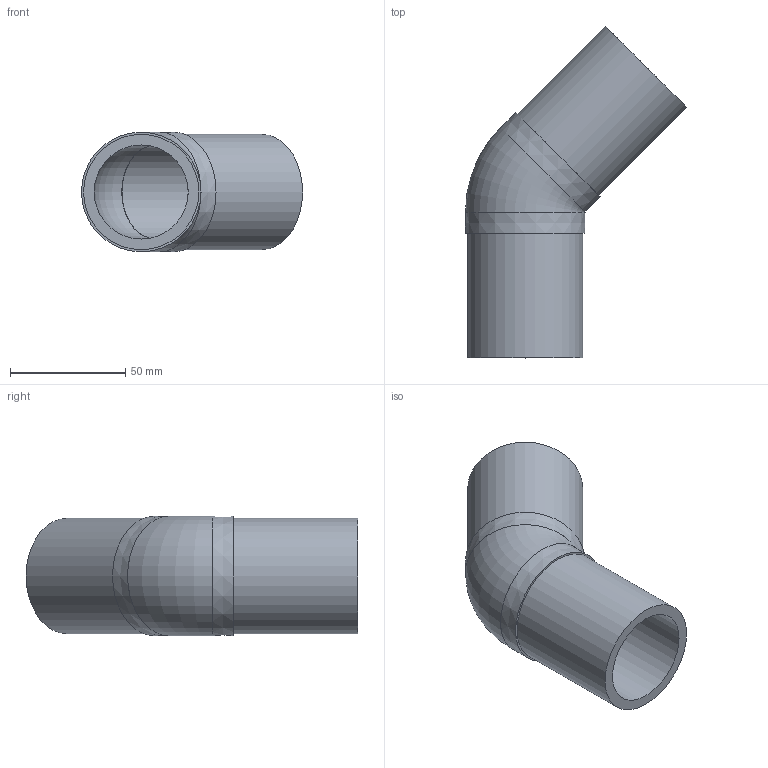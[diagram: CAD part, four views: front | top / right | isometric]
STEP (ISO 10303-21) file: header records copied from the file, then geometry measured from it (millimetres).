
FILE_DESCRIPTION(('Beschreibung'),'1');
FILE_NAME('V:/Ziel/25.15.01.103_SDR11_PE100_050.STP', '2014-09-15T05:50:01',('Author'), ('Organization'), 'KCM Version 1.1.794.0', 'Kubotek KeyCreator', 'Authorization');
FILE_SCHEMA(('CONFIG_CONTROL_DESIGN'));
Length unit declared in the file: millimetre
Bounding box: 95.92 x 144 x 51.84 mm (x, y, z)
Volume: 101760.9 mm3; surface area: 43788.5 mm2
Topology: 1 solids, 1 shells, 17 faces, 57 edges, 65 vertices
Faces by surface type: plane 7, cylinder 5, torus 2, cone 2, bspline 1
Full cylindrical faces by diameter (mm): 40.6 x1, 40.8 x2, 50 x2
Entity records: 665 total; most frequent: CARTESIAN_POINT 117, DIRECTION 107, ORIENTED_EDGE 72, AXIS2_PLACEMENT_3D 40, EDGE_CURVE 36, VECTOR 27, LINE 27, VERTEX_POINT 26
